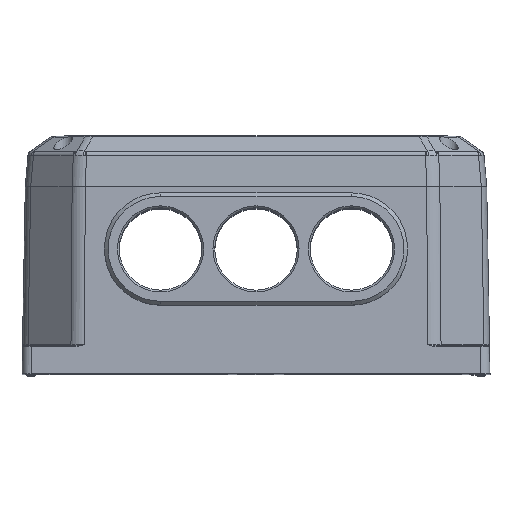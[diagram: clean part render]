
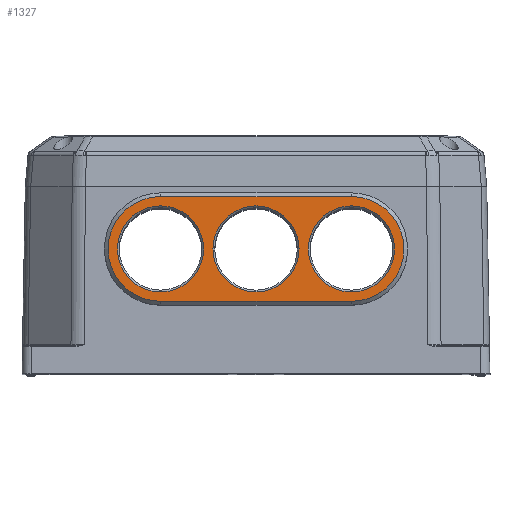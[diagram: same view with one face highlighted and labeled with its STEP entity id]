
A CAD part, top view. The second image highlights one B-rep face of the part: STEP entity #1327.
In plain terms, the highlighted planar face has unit normal (0, 0.018, 1).
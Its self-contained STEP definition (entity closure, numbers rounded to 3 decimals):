
#202 = AXIS2_PLACEMENT_3D ( 'NONE', #38331, #38008, #56764 ) ;
#917 = EDGE_CURVE ( 'NONE', #10452, #62278, #54898, .T. ) ;
#1243 = CARTESIAN_POINT ( 'NONE',  ( 51., -61.391, 145.327 ) ) ;
#1327 = ADVANCED_FACE ( 'NONE', ( #4993, #39641, #29923, #20226 ), #59338, .T. ) ;
#1524 = ORIENTED_EDGE ( 'NONE', *, *, #27515, .T. ) ;
#2746 = ORIENTED_EDGE ( 'NONE', *, *, #19330, .T. ) ;
#3242 = CARTESIAN_POINT ( 'NONE',  ( -51., -10.399, 144.437 ) ) ;
#3861 = DIRECTION ( 'NONE',  ( 0., -0.017, -1. ) ) ;
#4210 = AXIS2_PLACEMENT_3D ( 'NONE', #51888, #22794, #62220 ) ;
#4313 = VERTEX_POINT ( 'NONE', #62637 ) ;
#4418 = DIRECTION ( 'NONE',  ( 0., -1., 0.017 ) ) ;
#4945 = CARTESIAN_POINT ( 'NONE',  ( 51., -33.395, 144.839 ) ) ;
#4993 = FACE_OUTER_BOUND ( 'NONE', #59177, .T. ) ;
#8132 = DIRECTION ( 'NONE',  ( 0., -0.017, -1. ) ) ;
#9051 = AXIS2_PLACEMENT_3D ( 'NONE', #27590, #8132, #52160 ) ;
#9115 = AXIS2_PLACEMENT_3D ( 'NONE', #13795, #43246, #4418 ) ;
#9386 = CIRCLE ( 'NONE', #4210, 23. ) ;
#10452 = VERTEX_POINT ( 'NONE', #11130 ) ;
#11130 = CARTESIAN_POINT ( 'NONE',  ( -51., -61.391, 145.327 ) ) ;
#11509 = CIRCLE ( 'NONE', #202, 23. ) ;
#11633 = EDGE_CURVE ( 'NONE', #53673, #10452, #21667, .T. ) ;
#13245 = DIRECTION ( 'NONE',  ( 0., -1., 0.017 ) ) ;
#13795 = CARTESIAN_POINT ( 'NONE',  ( -51., -33.395, 144.839 ) ) ;
#14035 = CIRCLE ( 'NONE', #38866, 23. ) ;
#14068 = CARTESIAN_POINT ( 'NONE',  ( 0., -56.392, 145.24 ) ) ;
#14985 = VERTEX_POINT ( 'NONE', #61203 ) ;
#17791 = ORIENTED_EDGE ( 'NONE', *, *, #34941, .T. ) ;
#19330 = EDGE_CURVE ( 'NONE', #41409, #37431, #9386, .T. ) ;
#19980 = DIRECTION ( 'NONE',  ( 1., 0., 0. ) ) ;
#20226 = FACE_BOUND ( 'NONE', #42088, .T. ) ;
#21667 = CIRCLE ( 'NONE', #9115, 28. ) ;
#22794 = DIRECTION ( 'NONE',  ( 0., -0.017, -1. ) ) ;
#22804 = CARTESIAN_POINT ( 'NONE',  ( 51., -56.392, 145.24 ) ) ;
#23334 = CARTESIAN_POINT ( 'NONE',  ( 51., -33.395, 144.839 ) ) ;
#23391 = CARTESIAN_POINT ( 'NONE',  ( 51., -5.4, 144.35 ) ) ;
#23656 = ORIENTED_EDGE ( 'NONE', *, *, #56571, .T. ) ;
#23787 = CIRCLE ( 'NONE', #61973, 28. ) ;
#24865 = VECTOR ( 'NONE', #19980, 1000. ) ;
#25136 = ORIENTED_EDGE ( 'NONE', *, *, #30803, .T. ) ;
#25394 = CARTESIAN_POINT ( 'NONE',  ( -51., -5.4, 144.35 ) ) ;
#26962 = ORIENTED_EDGE ( 'NONE', *, *, #61231, .T. ) ;
#27515 = EDGE_CURVE ( 'NONE', #37431, #41409, #14035, .T. ) ;
#27590 = CARTESIAN_POINT ( 'NONE',  ( -51., -33.395, 144.839 ) ) ;
#28505 = ORIENTED_EDGE ( 'NONE', *, *, #54243, .T. ) ;
#28965 = DIRECTION ( 'NONE',  ( 0., 0.017, 1. ) ) ;
#29019 = CARTESIAN_POINT ( 'NONE',  ( 0., -33.395, 144.839 ) ) ;
#29874 = DIRECTION ( 'NONE',  ( 0., 0.017, 1. ) ) ;
#29923 = FACE_BOUND ( 'NONE', #32180, .T. ) ;
#30803 = EDGE_CURVE ( 'NONE', #34265, #53673, #49320, .T. ) ;
#30931 = ORIENTED_EDGE ( 'NONE', *, *, #11633, .T. ) ;
#32180 = EDGE_LOOP ( 'NONE', ( #2746, #1524 ) ) ;
#32244 = AXIS2_PLACEMENT_3D ( 'NONE', #39953, #28965, #39321 ) ;
#32267 = CARTESIAN_POINT ( 'NONE',  ( 0., -10.399, 144.437 ) ) ;
#34265 = VERTEX_POINT ( 'NONE', #23391 ) ;
#34845 = DIRECTION ( 'NONE',  ( 0., -0.017, -1. ) ) ;
#34941 = EDGE_CURVE ( 'NONE', #14985, #38944, #62755, .T. ) ;
#36087 = DIRECTION ( 'NONE',  ( 0., -0.017, -1. ) ) ;
#37431 = VERTEX_POINT ( 'NONE', #32267 ) ;
#37949 = EDGE_CURVE ( 'NONE', #62278, #34265, #23787, .T. ) ;
#38008 = DIRECTION ( 'NONE',  ( 0., -0.017, -1. ) ) ;
#38331 = CARTESIAN_POINT ( 'NONE',  ( 51., -33.395, 144.839 ) ) ;
#38728 = DIRECTION ( 'NONE',  ( 0., -1., 0.017 ) ) ;
#38866 = AXIS2_PLACEMENT_3D ( 'NONE', #29019, #34845, #38728 ) ;
#38944 = VERTEX_POINT ( 'NONE', #3242 ) ;
#39116 = CIRCLE ( 'NONE', #43208, 23. ) ;
#39321 = DIRECTION ( 'NONE',  ( 0., -1., 0.017 ) ) ;
#39422 = ORIENTED_EDGE ( 'NONE', *, *, #917, .T. ) ;
#39626 = DIRECTION ( 'NONE',  ( -1., 0., 0. ) ) ;
#39641 = FACE_BOUND ( 'NONE', #46991, .T. ) ;
#39953 = CARTESIAN_POINT ( 'NONE',  ( -51., -33.395, 144.839 ) ) ;
#41409 = VERTEX_POINT ( 'NONE', #14068 ) ;
#42088 = EDGE_LOOP ( 'NONE', ( #26962, #28505 ) ) ;
#43026 = CIRCLE ( 'NONE', #56460, 23. ) ;
#43208 = AXIS2_PLACEMENT_3D ( 'NONE', #45782, #36087, #50953 ) ;
#43246 = DIRECTION ( 'NONE',  ( 0., 0.017, 1. ) ) ;
#45782 = CARTESIAN_POINT ( 'NONE',  ( -51., -33.395, 144.839 ) ) ;
#46991 = EDGE_LOOP ( 'NONE', ( #17791, #23656 ) ) ;
#47058 = VERTEX_POINT ( 'NONE', #22804 ) ;
#49320 = LINE ( 'NONE', #60281, #49434 ) ;
#49434 = VECTOR ( 'NONE', #39626, 1000. ) ;
#50953 = DIRECTION ( 'NONE',  ( 0., -1., 0.017 ) ) ;
#51888 = CARTESIAN_POINT ( 'NONE',  ( 0., -33.395, 144.839 ) ) ;
#52160 = DIRECTION ( 'NONE',  ( 0., -1., 0.017 ) ) ;
#53673 = VERTEX_POINT ( 'NONE', #25394 ) ;
#53943 = CARTESIAN_POINT ( 'NONE',  ( 51., -61.391, 145.327 ) ) ;
#54243 = EDGE_CURVE ( 'NONE', #4313, #47058, #43026, .T. ) ;
#54898 = LINE ( 'NONE', #53943, #24865 ) ;
#56460 = AXIS2_PLACEMENT_3D ( 'NONE', #23334, #3861, #13245 ) ;
#56571 = EDGE_CURVE ( 'NONE', #38944, #14985, #39116, .T. ) ;
#56764 = DIRECTION ( 'NONE',  ( 0., -1., 0.017 ) ) ;
#58959 = DIRECTION ( 'NONE',  ( 0., -1., 0.017 ) ) ;
#59177 = EDGE_LOOP ( 'NONE', ( #62635, #25136, #30931, #39422 ) ) ;
#59338 = PLANE ( 'NONE',  #32244 ) ;
#60281 = CARTESIAN_POINT ( 'NONE',  ( -51., -5.4, 144.35 ) ) ;
#61203 = CARTESIAN_POINT ( 'NONE',  ( -51., -56.392, 145.24 ) ) ;
#61231 = EDGE_CURVE ( 'NONE', #47058, #4313, #11509, .T. ) ;
#61973 = AXIS2_PLACEMENT_3D ( 'NONE', #4945, #29874, #58959 ) ;
#62220 = DIRECTION ( 'NONE',  ( 0., -1., 0.017 ) ) ;
#62278 = VERTEX_POINT ( 'NONE', #1243 ) ;
#62635 = ORIENTED_EDGE ( 'NONE', *, *, #37949, .T. ) ;
#62637 = CARTESIAN_POINT ( 'NONE',  ( 51., -10.399, 144.437 ) ) ;
#62755 = CIRCLE ( 'NONE', #9051, 23. ) ;
